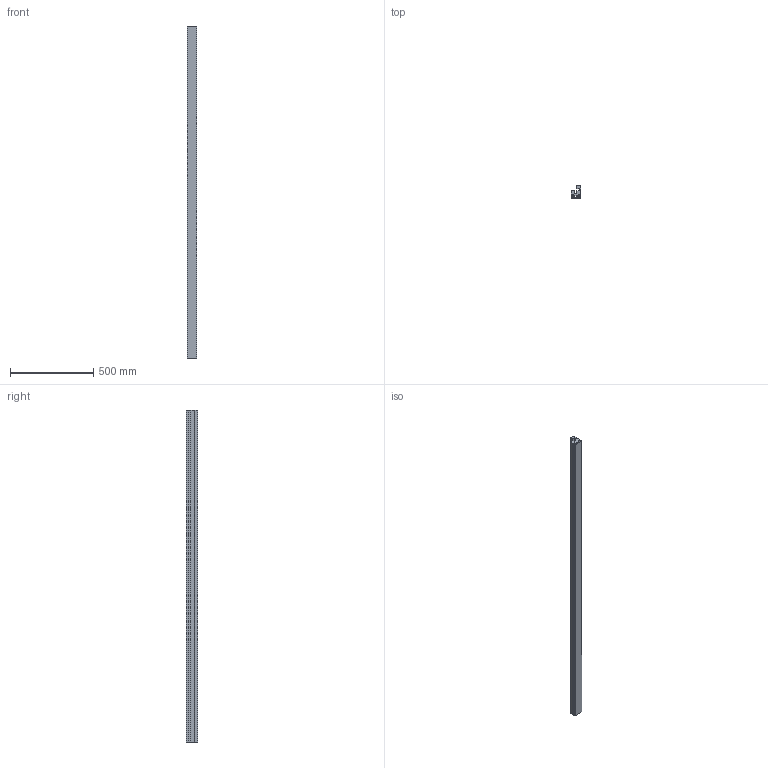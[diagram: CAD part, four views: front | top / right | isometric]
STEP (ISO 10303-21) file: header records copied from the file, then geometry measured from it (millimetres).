
FILE_DESCRIPTION (( 'STEP AP214' ), '1' );
FILE_NAME ('GHGE13.STEP', '2024-01-24T10:32:25', ( '' ), ( '' ), 'SwSTEP 2.0', 'SolidWorks 2022', '' );
FILE_SCHEMA (( 'AUTOMOTIVE_DESIGN' ));
Length unit declared in the file: millimetre
Products named in the file (3): GHGE13.SG; GHGE13; C6020
Assembly tree (2 placements, depth 2):
  GHGE13
    GHGE13.SG
    C6020
Bounding box: 60 x 70 x 2000 mm (x, y, z)
Volume: 4398283.2 mm3; surface area: 1146278.4 mm2
Topology: 2 solids, 2 shells, 44 faces, 120 edges, 80 vertices
Faces by surface type: plane 40, cylinder 4
Entity records: 1482 total; most frequent: CARTESIAN_POINT 249, ORIENTED_EDGE 240, DIRECTION 226, EDGE_CURVE 120, LINE 112, VECTOR 112, VERTEX_POINT 80, AXIS2_PLACEMENT_3D 57
